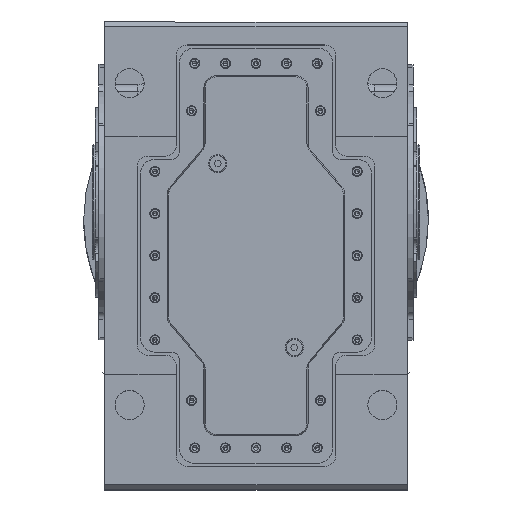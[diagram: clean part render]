
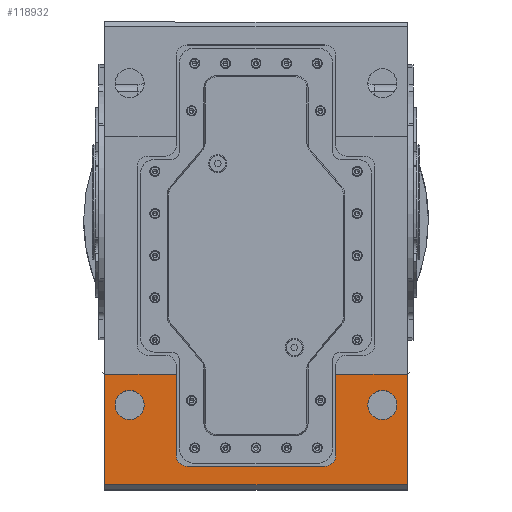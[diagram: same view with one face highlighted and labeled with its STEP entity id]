
A CAD part, top view. The second image highlights one B-rep face of the part: STEP entity #118932.
In plain terms, the highlighted planar face has unit normal (0, 0, 1).
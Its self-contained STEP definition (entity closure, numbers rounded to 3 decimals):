
#8618 = AXIS2_PLACEMENT_3D ( 'NONE', #89672, #89610, #89741 ) ;
#8651 = AXIS2_PLACEMENT_3D ( 'NONE', #89894, #89897, #90009 ) ;
#16880 = ORIENTED_EDGE ( 'NONE', *, *, #30168, .T. ) ;
#16883 = ORIENTED_EDGE ( 'NONE', *, *, #30447, .T. ) ;
#17070 = ORIENTED_EDGE ( 'NONE', *, *, #51552, .F. ) ;
#17089 = ORIENTED_EDGE ( 'NONE', *, *, #30027, .T. ) ;
#17095 = ORIENTED_EDGE ( 'NONE', *, *, #71052, .T. ) ;
#17135 = ORIENTED_EDGE ( 'NONE', *, *, #51559, .T. ) ;
#17167 = ORIENTED_EDGE ( 'NONE', *, *, #30100, .T. ) ;
#17181 = ORIENTED_EDGE ( 'NONE', *, *, #30087, .T. ) ;
#17193 = ORIENTED_EDGE ( 'NONE', *, *, #30228, .T. ) ;
#17198 = ORIENTED_EDGE ( 'NONE', *, *, #51589, .F. ) ;
#17208 = ORIENTED_EDGE ( 'NONE', *, *, #51597, .T. ) ;
#17215 = ORIENTED_EDGE ( 'NONE', *, *, #71016, .T. ) ;
#17227 = ORIENTED_EDGE ( 'NONE', *, *, #30267, .T. ) ;
#17232 = ORIENTED_EDGE ( 'NONE', *, *, #30033, .T. ) ;
#30027 = EDGE_CURVE ( 'NONE', #54467, #54481, #126916, .T. ) ;
#30033 = EDGE_CURVE ( 'NONE', #54585, #54449, #126919, .T. ) ;
#30087 = EDGE_CURVE ( 'NONE', #54449, #54467, #126963, .T. ) ;
#30100 = EDGE_CURVE ( 'NONE', #54481, #54409, #126967, .T. ) ;
#30168 = EDGE_CURVE ( 'NONE', #54409, #54535, #126951, .T. ) ;
#30228 = EDGE_CURVE ( 'NONE', #87660, #87689, #127041, .T. ) ;
#30267 = EDGE_CURVE ( 'NONE', #87641, #87670, #127052, .T. ) ;
#30447 = EDGE_CURVE ( 'NONE', #54535, #54705, #127452, .T. ) ;
#43291 = VECTOR ( 'NONE', #48539, 1000. ) ;
#43292 = LINE ( 'NONE', #48542, #43291 ) ;
#43301 = LINE ( 'NONE', #48578, #43305 ) ;
#43305 = VECTOR ( 'NONE', #48591, 1000. ) ;
#43360 = VECTOR ( 'NONE', #48644, 1000. ) ;
#43361 = VECTOR ( 'NONE', #48626, 1000. ) ;
#43369 = LINE ( 'NONE', #48670, #43360 ) ;
#43385 = LINE ( 'NONE', #48609, #43361 ) ;
#44833 = CARTESIAN_POINT ( 'NONE',  ( 90., -322.5, 687. ) ) ;
#44839 = CARTESIAN_POINT ( 'NONE',  ( -90., -322.5, 687. ) ) ;
#44850 = CARTESIAN_POINT ( 'NONE',  ( -104., -308.5, 687. ) ) ;
#44877 = CARTESIAN_POINT ( 'NONE',  ( 104., -308.5, 687. ) ) ;
#44899 = CARTESIAN_POINT ( 'NONE',  ( -104., -202.5, 687. ) ) ;
#44924 = CARTESIAN_POINT ( 'NONE',  ( 104., -202.5, 687. ) ) ;
#44951 = CARTESIAN_POINT ( 'NONE',  ( -197.5, -202.5, 687. ) ) ;
#45128 = CARTESIAN_POINT ( 'NONE',  ( 197.5, -202.5, 687. ) ) ;
#45150 = CARTESIAN_POINT ( 'NONE',  ( 197.5, -346.5, 687. ) ) ;
#45178 = CARTESIAN_POINT ( 'NONE',  ( -197.5, -346.5, 687. ) ) ;
#48539 = DIRECTION ( 'NONE',  ( 0., -1., 0. ) ) ;
#48542 = CARTESIAN_POINT ( 'NONE',  ( 197.5, 229.5, 687. ) ) ;
#48578 = CARTESIAN_POINT ( 'NONE',  ( -200., -346.5, 687. ) ) ;
#48591 = DIRECTION ( 'NONE',  ( 1., 0., 0. ) ) ;
#48609 = CARTESIAN_POINT ( 'NONE',  ( -197.5, 229.5, 687. ) ) ;
#48626 = DIRECTION ( 'NONE',  ( 0., 1., 0. ) ) ;
#48644 = DIRECTION ( 'NONE',  ( -1., 0., 0. ) ) ;
#48670 = CARTESIAN_POINT ( 'NONE',  ( -200., -202.5, 687. ) ) ;
#51552 = EDGE_CURVE ( 'NONE', #54997, #55147, #43292, .T. ) ;
#51559 = EDGE_CURVE ( 'NONE', #55119, #55147, #43301, .T. ) ;
#51589 = EDGE_CURVE ( 'NONE', #55119, #54705, #43385, .T. ) ;
#51597 = EDGE_CURVE ( 'NONE', #54997, #54585, #43369, .T. ) ;
#54409 = VERTEX_POINT ( 'NONE', #44850 ) ;
#54449 = VERTEX_POINT ( 'NONE', #44877 ) ;
#54467 = VERTEX_POINT ( 'NONE', #44833 ) ;
#54481 = VERTEX_POINT ( 'NONE', #44839 ) ;
#54535 = VERTEX_POINT ( 'NONE', #44899 ) ;
#54585 = VERTEX_POINT ( 'NONE', #44924 ) ;
#54705 = VERTEX_POINT ( 'NONE', #44951 ) ;
#54997 = VERTEX_POINT ( 'NONE', #45128 ) ;
#55119 = VERTEX_POINT ( 'NONE', #45178 ) ;
#55147 = VERTEX_POINT ( 'NONE', #45150 ) ;
#59618 = FACE_BOUND ( 'NONE', #156004, .T. ) ;
#59637 = FACE_OUTER_BOUND ( 'NONE', #156015, .T. ) ;
#59654 = FACE_BOUND ( 'NONE', #156008, .T. ) ;
#71016 = EDGE_CURVE ( 'NONE', #87689, #87660, #85345, .T. ) ;
#71052 = EDGE_CURVE ( 'NONE', #87670, #87641, #85496, .T. ) ;
#80376 = DIRECTION ( 'NONE',  ( 0., -1., 0. ) ) ;
#80378 = DIRECTION ( 'NONE',  ( -1., 0., 0. ) ) ;
#80393 = CARTESIAN_POINT ( 'NONE',  ( -200., -322.5, 687. ) ) ;
#80427 = CARTESIAN_POINT ( 'NONE',  ( 104., -202.5, 687. ) ) ;
#80541 = DIRECTION ( 'NONE',  ( 0., 0., -1. ) ) ;
#80561 = DIRECTION ( 'NONE',  ( 0., 0., -1. ) ) ;
#80563 = CARTESIAN_POINT ( 'NONE',  ( 90., -308.5, 687. ) ) ;
#80569 = CARTESIAN_POINT ( 'NONE',  ( -90., -308.5, 687. ) ) ;
#80594 = DIRECTION ( 'NONE',  ( 1., 0., 0. ) ) ;
#80598 = DIRECTION ( 'NONE',  ( 1., 0., 0. ) ) ;
#80811 = CARTESIAN_POINT ( 'NONE',  ( -104., -202.5, 687. ) ) ;
#80815 = DIRECTION ( 'NONE',  ( 0., 1., 0. ) ) ;
#85345 = CIRCLE ( 'NONE', #8618, 19. ) ;
#85496 = CIRCLE ( 'NONE', #8651, 19. ) ;
#87641 = VERTEX_POINT ( 'NONE', #109863 ) ;
#87660 = VERTEX_POINT ( 'NONE', #109905 ) ;
#87670 = VERTEX_POINT ( 'NONE', #109751 ) ;
#87689 = VERTEX_POINT ( 'NONE', #109824 ) ;
#89610 = DIRECTION ( 'NONE',  ( 0., 0., -1. ) ) ;
#89672 = CARTESIAN_POINT ( 'NONE',  ( 165., -242.5, 687. ) ) ;
#89741 = DIRECTION ( 'NONE',  ( 1., 0., 0. ) ) ;
#89894 = CARTESIAN_POINT ( 'NONE',  ( -165., -242.5, 687. ) ) ;
#89897 = DIRECTION ( 'NONE',  ( 0., 0., -1. ) ) ;
#90009 = DIRECTION ( 'NONE',  ( 1., 0., 0. ) ) ;
#90734 = DIRECTION ( 'NONE',  ( -1., 0., 0. ) ) ;
#90813 = CARTESIAN_POINT ( 'NONE',  ( -200., -202.5, 687. ) ) ;
#91905 = DIRECTION ( 'NONE',  ( 0., 0., -1. ) ) ;
#91965 = DIRECTION ( 'NONE',  ( 1., 0., 0. ) ) ;
#91983 = CARTESIAN_POINT ( 'NONE',  ( 165., -242.5, 687. ) ) ;
#92164 = DIRECTION ( 'NONE',  ( 1., 0., 0. ) ) ;
#92174 = DIRECTION ( 'NONE',  ( 0., 0., -1. ) ) ;
#92200 = CARTESIAN_POINT ( 'NONE',  ( -165., -242.5, 687. ) ) ;
#109751 = CARTESIAN_POINT ( 'NONE',  ( -146., -242.5, 687. ) ) ;
#109824 = CARTESIAN_POINT ( 'NONE',  ( 184., -242.5, 687. ) ) ;
#109863 = CARTESIAN_POINT ( 'NONE',  ( -184., -242.5, 687. ) ) ;
#109905 = CARTESIAN_POINT ( 'NONE',  ( 146., -242.5, 687. ) ) ;
#118932 = ADVANCED_FACE ( 'NONE', ( #59637, #59654, #59618 ), #132432, .T. ) ;
#126871 = VECTOR ( 'NONE', #80378, 1000. ) ;
#126910 = VECTOR ( 'NONE', #80376, 1000. ) ;
#126916 = LINE ( 'NONE', #80393, #126871 ) ;
#126919 = LINE ( 'NONE', #80427, #126910 ) ;
#126951 = LINE ( 'NONE', #80811, #126952 ) ;
#126952 = VECTOR ( 'NONE', #80815, 1000. ) ;
#126963 = CIRCLE ( 'NONE', #132810, 14. ) ;
#126967 = CIRCLE ( 'NONE', #132812, 14. ) ;
#127041 = CIRCLE ( 'NONE', #132855, 19. ) ;
#127052 = CIRCLE ( 'NONE', #132898, 19. ) ;
#127429 = VECTOR ( 'NONE', #90734, 1000. ) ;
#127452 = LINE ( 'NONE', #90813, #127429 ) ;
#132432 = PLANE ( 'NONE',  #136056 ) ;
#132438 = CARTESIAN_POINT ( 'NONE',  ( -200., -202.5, 687. ) ) ;
#132442 = DIRECTION ( 'NONE',  ( 0., 0., 1. ) ) ;
#132455 = DIRECTION ( 'NONE',  ( 1., 0., 0. ) ) ;
#132810 = AXIS2_PLACEMENT_3D ( 'NONE', #80563, #80561, #80598 ) ;
#132812 = AXIS2_PLACEMENT_3D ( 'NONE', #80569, #80541, #80594 ) ;
#132855 = AXIS2_PLACEMENT_3D ( 'NONE', #91983, #91905, #91965 ) ;
#132898 = AXIS2_PLACEMENT_3D ( 'NONE', #92200, #92174, #92164 ) ;
#136056 = AXIS2_PLACEMENT_3D ( 'NONE', #132438, #132442, #132455 ) ;
#156004 = EDGE_LOOP ( 'NONE', ( #17095, #17227 ) ) ;
#156008 = EDGE_LOOP ( 'NONE', ( #17215, #17193 ) ) ;
#156015 = EDGE_LOOP ( 'NONE', ( #17167, #16880, #16883, #17198, #17135, #17070, #17208, #17232, #17181, #17089 ) ) ;
